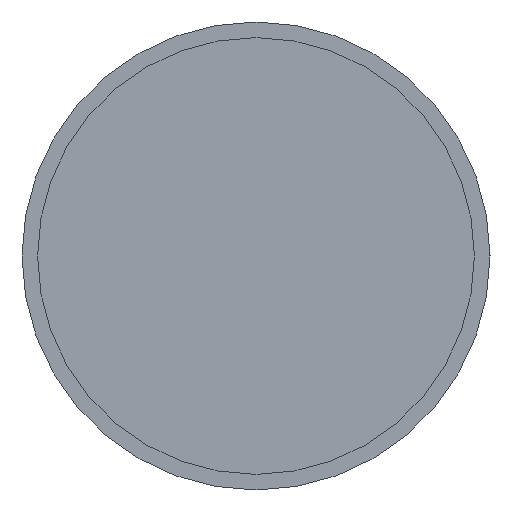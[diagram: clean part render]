
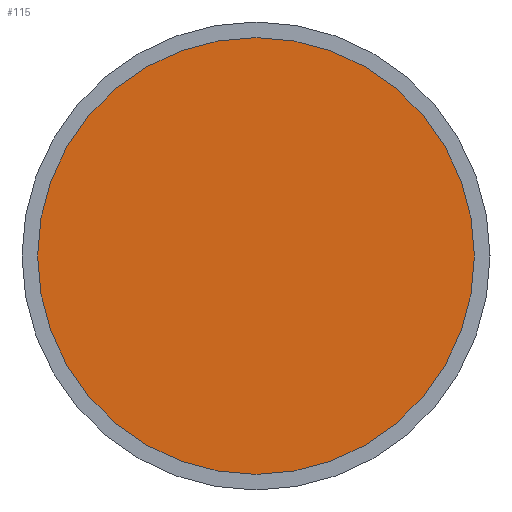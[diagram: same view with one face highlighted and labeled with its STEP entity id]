
A CAD part, left-side view. The second image highlights one B-rep face of the part: STEP entity #115.
In plain terms, the highlighted planar face has unit normal (-1, 0, 0).
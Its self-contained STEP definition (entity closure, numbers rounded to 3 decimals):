
#23=ORIENTED_EDGE('',*,*,#33,.F.);
#33=EDGE_CURVE('',#38,#38,#43,.T.);
#38=VERTEX_POINT('',#164);
#43=CIRCLE('',#127,2.8);
#48=EDGE_LOOP('',(#23));
#58=FACE_BOUND('',#48,.T.);
#68=PLANE('',#126);
#115=ADVANCED_FACE('',(#58),#68,.F.);
#126=AXIS2_PLACEMENT_3D('',#162,#139,#140);
#127=AXIS2_PLACEMENT_3D('',#163,#141,#142);
#139=DIRECTION('',(1.,0.,0.));
#140=DIRECTION('',(0.,0.,-1.));
#141=DIRECTION('',(1.,0.,0.));
#142=DIRECTION('',(0.,0.,-1.));
#162=CARTESIAN_POINT('',(-13.,0.,0.));
#163=CARTESIAN_POINT('',(-13.,0.,0.));
#164=CARTESIAN_POINT('',(-13.,0.,-2.8));
